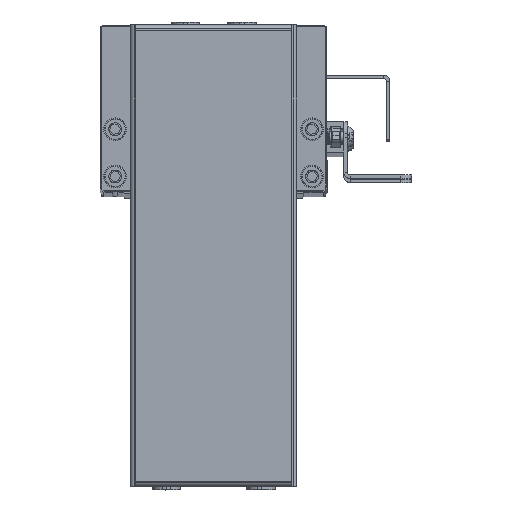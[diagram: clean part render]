
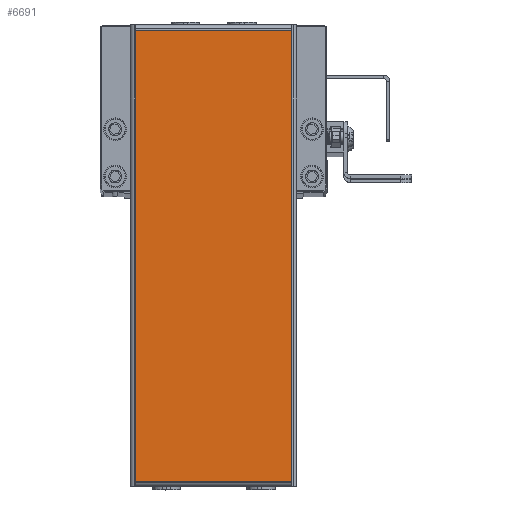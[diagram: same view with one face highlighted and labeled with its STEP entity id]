
A CAD part, top view. The second image highlights one B-rep face of the part: STEP entity #6691.
In plain terms, the highlighted planar face has unit normal (0, 0, 1) as drawn and (0, 0, -1) by its records, which use the part's own axes.
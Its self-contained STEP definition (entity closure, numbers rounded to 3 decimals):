
#326 = CARTESIAN_POINT ( 'NONE',  ( 120.5, 1.3, -1. ) ) ;
#1884 = CARTESIAN_POINT ( 'NONE',  ( 0., 0., -1. ) ) ;
#2070 = DIRECTION ( 'NONE',  ( 0., 0., -1. ) ) ;
#4257 = CARTESIAN_POINT ( 'NONE',  ( 122., 1.3, -1. ) ) ;
#6691 = ADVANCED_FACE ( 'NONE', ( #57166 ), #30420, .T. ) ;
#8349 = LINE ( 'NONE', #4257, #26999 ) ;
#8414 = CARTESIAN_POINT ( 'NONE',  ( 120.5, 42.7, -1. ) ) ;
#10710 = CARTESIAN_POINT ( 'NONE',  ( 120.5, 42.7, -1. ) ) ;
#12417 = ORIENTED_EDGE ( 'NONE', *, *, #56944, .T. ) ;
#13135 = CARTESIAN_POINT ( 'NONE',  ( 1.5, 1.3, -1. ) ) ;
#13266 = VERTEX_POINT ( 'NONE', #13135 ) ;
#13974 = VERTEX_POINT ( 'NONE', #50478 ) ;
#15798 = DIRECTION ( 'NONE',  ( -1., 0., 0. ) ) ;
#16899 = ORIENTED_EDGE ( 'NONE', *, *, #52920, .T. ) ;
#17397 = LINE ( 'NONE', #46835, #41235 ) ;
#17583 = DIRECTION ( 'NONE',  ( 0., -1., 0. ) ) ;
#18223 = DIRECTION ( 'NONE',  ( 0., 1., 0. ) ) ;
#19511 = LINE ( 'NONE', #8414, #43306 ) ;
#23942 = LINE ( 'NONE', #43902, #44720 ) ;
#26999 = VECTOR ( 'NONE', #37559, 1000. ) ;
#29610 = DIRECTION ( 'NONE',  ( 1., 0., 0. ) ) ;
#30135 = EDGE_CURVE ( 'NONE', #13266, #13974, #17397, .T. ) ;
#30420 = PLANE ( 'NONE',  #41016 ) ;
#31813 = VERTEX_POINT ( 'NONE', #10710 ) ;
#37559 = DIRECTION ( 'NONE',  ( -1., 0., 0. ) ) ;
#41016 = AXIS2_PLACEMENT_3D ( 'NONE', #1884, #2070, #15798 ) ;
#41235 = VECTOR ( 'NONE', #18223, 1000. ) ;
#43306 = VECTOR ( 'NONE', #17583, 1000. ) ;
#43902 = CARTESIAN_POINT ( 'NONE',  ( 0., 42.7, -1. ) ) ;
#44720 = VECTOR ( 'NONE', #29610, 1000. ) ;
#46835 = CARTESIAN_POINT ( 'NONE',  ( 1.5, 1.3, -1. ) ) ;
#50478 = CARTESIAN_POINT ( 'NONE',  ( 1.5, 42.7, -1. ) ) ;
#51377 = ORIENTED_EDGE ( 'NONE', *, *, #54409, .T. ) ;
#52920 = EDGE_CURVE ( 'NONE', #60778, #13266, #8349, .T. ) ;
#54329 = EDGE_LOOP ( 'NONE', ( #51377, #12417, #16899, #56548 ) ) ;
#54409 = EDGE_CURVE ( 'NONE', #13974, #31813, #23942, .T. ) ;
#56548 = ORIENTED_EDGE ( 'NONE', *, *, #30135, .T. ) ;
#56944 = EDGE_CURVE ( 'NONE', #31813, #60778, #19511, .T. ) ;
#57166 = FACE_OUTER_BOUND ( 'NONE', #54329, .T. ) ;
#60778 = VERTEX_POINT ( 'NONE', #326 ) ;
